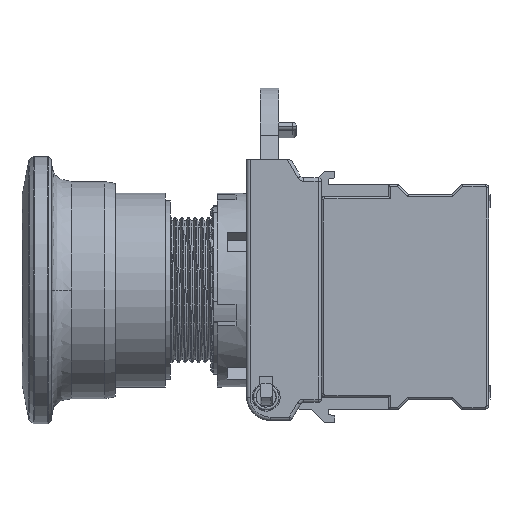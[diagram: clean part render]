
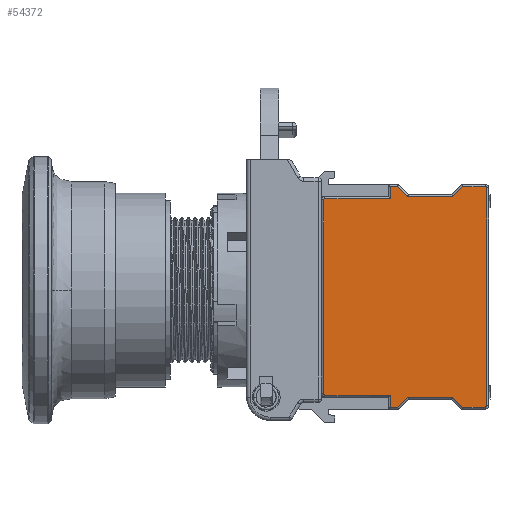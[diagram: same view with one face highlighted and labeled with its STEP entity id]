
A CAD part, left-side view. The second image highlights one B-rep face of the part: STEP entity #54372.
In plain terms, the highlighted planar face has unit normal (-1, 0, 0).
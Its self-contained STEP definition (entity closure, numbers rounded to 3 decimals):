
#3499=LINE('',#78995,#7884);
#3500=LINE('',#79000,#7885);
#3503=LINE('',#79007,#7888);
#3505=LINE('',#79018,#7890);
#3506=LINE('',#79023,#7891);
#3508=LINE('',#79028,#7893);
#3510=LINE('',#79040,#7895);
#3511=LINE('',#79045,#7896);
#3514=LINE('',#79052,#7899);
#3515=LINE('',#79057,#7900);
#3517=LINE('',#79068,#7902);
#3519=LINE('',#79073,#7904);
#3520=LINE('',#79077,#7905);
#3522=LINE('',#79088,#7907);
#3524=LINE('',#79094,#7909);
#3526=LINE('',#79097,#7911);
#7884=VECTOR('',#63513,1000.);
#7885=VECTOR('',#63518,1000.);
#7888=VECTOR('',#63525,1000.);
#7890=VECTOR('',#63539,1000.);
#7891=VECTOR('',#63544,1000.);
#7893=VECTOR('',#63550,1000.);
#7895=VECTOR('',#63564,1000.);
#7896=VECTOR('',#63569,1000.);
#7899=VECTOR('',#63576,1000.);
#7900=VECTOR('',#63581,1000.);
#7902=VECTOR('',#63595,1000.);
#7904=VECTOR('',#63601,1000.);
#7905=VECTOR('',#63606,1000.);
#7907=VECTOR('',#63620,1000.);
#7909=VECTOR('',#63626,1000.);
#7911=VECTOR('',#63630,1000.);
#15532=ORIENTED_EDGE('',*,*,#24151,.T.);
#15533=ORIENTED_EDGE('',*,*,#24145,.T.);
#15534=ORIENTED_EDGE('',*,*,#24147,.T.);
#15535=ORIENTED_EDGE('',*,*,#24153,.T.);
#15536=ORIENTED_EDGE('',*,*,#24159,.T.);
#15537=ORIENTED_EDGE('',*,*,#24164,.T.);
#15538=ORIENTED_EDGE('',*,*,#24170,.T.);
#15539=ORIENTED_EDGE('',*,*,#24176,.T.);
#15540=ORIENTED_EDGE('',*,*,#24182,.T.);
#15541=ORIENTED_EDGE('',*,*,#24187,.T.);
#15542=ORIENTED_EDGE('',*,*,#24193,.T.);
#15543=ORIENTED_EDGE('',*,*,#24198,.T.);
#15544=ORIENTED_EDGE('',*,*,#24196,.T.);
#15545=ORIENTED_EDGE('',*,*,#24191,.T.);
#15546=ORIENTED_EDGE('',*,*,#24185,.T.);
#15547=ORIENTED_EDGE('',*,*,#24180,.T.);
#15548=ORIENTED_EDGE('',*,*,#24174,.T.);
#15549=ORIENTED_EDGE('',*,*,#24168,.T.);
#15550=ORIENTED_EDGE('',*,*,#24162,.T.);
#15551=ORIENTED_EDGE('',*,*,#24157,.T.);
#24145=EDGE_CURVE('',#28921,#28924,#3499,.T.);
#24147=EDGE_CURVE('',#28924,#28926,#3500,.T.);
#24151=EDGE_CURVE('',#28927,#28921,#3503,.T.);
#24153=EDGE_CURVE('',#28926,#28930,#30919,.T.);
#24157=EDGE_CURVE('',#28931,#28927,#3505,.T.);
#24159=EDGE_CURVE('',#28930,#28933,#3506,.T.);
#24162=EDGE_CURVE('',#28934,#28931,#3508,.T.);
#24164=EDGE_CURVE('',#28933,#28936,#30923,.T.);
#24168=EDGE_CURVE('',#28937,#28934,#3510,.T.);
#24170=EDGE_CURVE('',#28936,#28940,#3511,.T.);
#24174=EDGE_CURVE('',#28941,#28937,#3514,.T.);
#24176=EDGE_CURVE('',#28940,#28944,#3515,.T.);
#24180=EDGE_CURVE('',#28945,#28941,#30928,.T.);
#24182=EDGE_CURVE('',#28944,#28947,#3517,.T.);
#24185=EDGE_CURVE('',#28948,#28945,#3519,.T.);
#24187=EDGE_CURVE('',#28947,#28949,#3520,.T.);
#24191=EDGE_CURVE('',#28950,#28948,#30932,.T.);
#24193=EDGE_CURVE('',#28949,#28952,#3522,.T.);
#24196=EDGE_CURVE('',#28953,#28950,#3524,.T.);
#24198=EDGE_CURVE('',#28952,#28953,#3526,.T.);
#28921=VERTEX_POINT('',#78989);
#28924=VERTEX_POINT('',#78994);
#28926=VERTEX_POINT('',#78999);
#28927=VERTEX_POINT('',#79004);
#28930=VERTEX_POINT('',#79011);
#28931=VERTEX_POINT('',#79016);
#28933=VERTEX_POINT('',#79022);
#28934=VERTEX_POINT('',#79027);
#28936=VERTEX_POINT('',#79032);
#28937=VERTEX_POINT('',#79037);
#28940=VERTEX_POINT('',#79044);
#28941=VERTEX_POINT('',#79049);
#28944=VERTEX_POINT('',#79056);
#28945=VERTEX_POINT('',#79061);
#28947=VERTEX_POINT('',#79067);
#28948=VERTEX_POINT('',#79072);
#28949=VERTEX_POINT('',#79076);
#28950=VERTEX_POINT('',#79081);
#28952=VERTEX_POINT('',#79087);
#28953=VERTEX_POINT('',#79091);
#30919=CIRCLE('',#56838,0.2);
#30923=CIRCLE('',#56848,0.2);
#30928=CIRCLE('',#56861,0.2);
#30932=CIRCLE('',#56871,0.2);
#32629=EDGE_LOOP('',(#15532,#15533,#15534,#15535,#15536,#15537,#15538,#15539,
#15540,#15541,#15542,#15543,#15544,#15545,#15546,#15547,#15548,#15549,#15550,
#15551));
#35019=FACE_BOUND('',#32629,.T.);
#37061=PLANE('',#56962);
#54372=ADVANCED_FACE('',(#35019),#37061,.T.);
#56838=AXIS2_PLACEMENT_3D('',#79012,#63530,#63531);
#56848=AXIS2_PLACEMENT_3D('',#79033,#63555,#63556);
#56861=AXIS2_PLACEMENT_3D('',#79063,#63589,#63590);
#56871=AXIS2_PLACEMENT_3D('',#79084,#63614,#63615);
#56962=AXIS2_PLACEMENT_3D('',#79498,#63998,#63999);
#63513=DIRECTION('',(0.,0.,-1.));
#63518=DIRECTION('',(0.,1.,0.));
#63525=DIRECTION('',(0.,1.,0.));
#63530=DIRECTION('',(-1.,0.,0.));
#63531=DIRECTION('',(0.,1.,0.));
#63539=DIRECTION('',(0.,0.707,0.707));
#63544=DIRECTION('',(0.,0.,-1.));
#63550=DIRECTION('',(0.,1.,0.));
#63555=DIRECTION('',(-1.,0.,0.));
#63556=DIRECTION('',(0.,1.,0.));
#63564=DIRECTION('',(0.,0.707,-0.707));
#63569=DIRECTION('',(0.,-1.,0.));
#63576=DIRECTION('',(0.,1.,0.));
#63581=DIRECTION('',(0.,0.,-1.));
#63589=DIRECTION('',(-1.,0.,0.));
#63590=DIRECTION('',(0.,1.,0.));
#63595=DIRECTION('',(0.,-1.,0.));
#63601=DIRECTION('',(0.,0.,1.));
#63606=DIRECTION('',(0.,-0.707,0.707));
#63614=DIRECTION('',(-1.,0.,0.));
#63615=DIRECTION('',(0.,1.,0.));
#63620=DIRECTION('',(0.,-1.,0.));
#63626=DIRECTION('',(0.,-1.,0.));
#63630=DIRECTION('',(0.,-0.707,-0.707));
#63998=DIRECTION('',(-1.,0.,0.));
#63999=DIRECTION('',(0.,1.,0.));
#78989=CARTESIAN_POINT('',(-15.,-44.8,17.5));
#78994=CARTESIAN_POINT('',(-15.,-44.8,15.7));
#78995=CARTESIAN_POINT('',(-15.,-44.8,16.));
#78999=CARTESIAN_POINT('',(-15.,-35.,15.7));
#79000=CARTESIAN_POINT('',(-15.,-47.,15.7));
#79004=CARTESIAN_POINT('',(-15.,-45.876,17.5));
#79007=CARTESIAN_POINT('',(-15.,-44.5,17.5));
#79011=CARTESIAN_POINT('',(-15.,-34.8,15.5));
#79012=CARTESIAN_POINT('',(-15.,-35.,15.5));
#79016=CARTESIAN_POINT('',(-15.,-47.376,16.));
#79018=CARTESIAN_POINT('',(-15.,-58.513,4.863));
#79022=CARTESIAN_POINT('',(-15.,-34.8,-13.5));
#79023=CARTESIAN_POINT('',(-15.,-34.8,-6.65));
#79027=CARTESIAN_POINT('',(-15.,-54.124,16.));
#79028=CARTESIAN_POINT('',(-15.,-47.,16.));
#79032=CARTESIAN_POINT('',(-15.,-35.,-13.7));
#79033=CARTESIAN_POINT('',(-15.,-35.,-13.5));
#79037=CARTESIAN_POINT('',(-15.,-55.624,17.5));
#79040=CARTESIAN_POINT('',(-15.,-39.237,1.113));
#79044=CARTESIAN_POINT('',(-15.,-44.8,-13.7));
#79045=CARTESIAN_POINT('',(-15.,-47.,-13.7));
#79049=CARTESIAN_POINT('',(-15.,-59.,17.5));
#79052=CARTESIAN_POINT('',(-15.,-47.,17.5));
#79056=CARTESIAN_POINT('',(-15.,-44.8,-15.5));
#79057=CARTESIAN_POINT('',(-15.,-44.8,-15.8));
#79061=CARTESIAN_POINT('',(-15.,-59.2,17.3));
#79063=CARTESIAN_POINT('',(-15.,-59.,17.3));
#79067=CARTESIAN_POINT('',(-15.,-45.876,-15.5));
#79068=CARTESIAN_POINT('',(-15.,-46.,-15.5));
#79072=CARTESIAN_POINT('',(-15.,-59.2,-15.3));
#79073=CARTESIAN_POINT('',(-15.,-59.2,-6.65));
#79076=CARTESIAN_POINT('',(-15.,-47.376,-14.));
#79077=CARTESIAN_POINT('',(-15.,-50.863,-10.513));
#79081=CARTESIAN_POINT('',(-15.,-59.,-15.5));
#79084=CARTESIAN_POINT('',(-15.,-59.,-15.3));
#79087=CARTESIAN_POINT('',(-15.,-54.124,-14.));
#79088=CARTESIAN_POINT('',(-15.,-47.,-14.));
#79091=CARTESIAN_POINT('',(-15.,-55.624,-15.5));
#79094=CARTESIAN_POINT('',(-15.,-47.,-15.5));
#79097=CARTESIAN_POINT('',(-15.,-46.887,-6.763));
#79498=CARTESIAN_POINT('',(-15.,-47.,-6.65));
